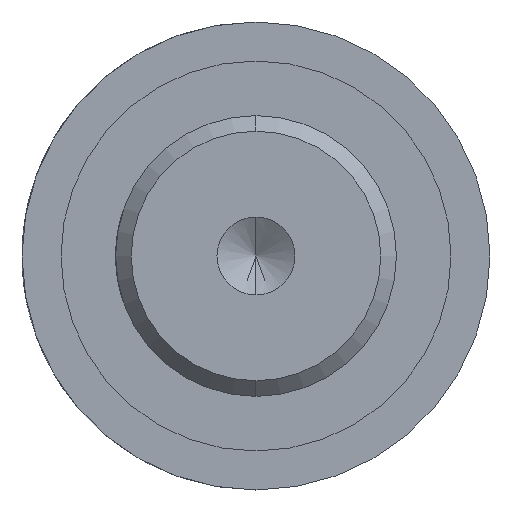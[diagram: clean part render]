
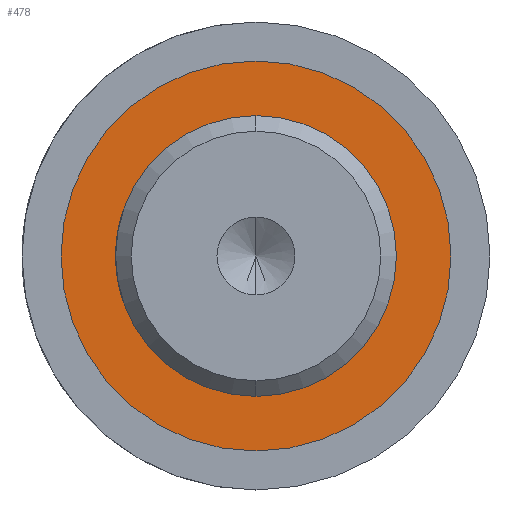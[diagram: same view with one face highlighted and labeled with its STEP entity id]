
A CAD part, left-side view. The second image highlights one B-rep face of the part: STEP entity #478.
In plain terms, the highlighted planar face has unit normal (-1, 0, 0).
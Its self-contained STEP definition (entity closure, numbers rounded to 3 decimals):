
#459 = EDGE_LOOP ( 'NONE', ( #479, #471 ) ) ;
#461 = EDGE_CURVE ( 'NONE', #520, #524, #589, .T. ) ;
#468 = ORIENTED_EDGE ( 'NONE', *, *, #537, .T. ) ;
#470 = EDGE_LOOP ( 'NONE', ( #468, #472 ) ) ;
#471 = ORIENTED_EDGE ( 'NONE', *, *, #556, .F. ) ;
#472 = ORIENTED_EDGE ( 'NONE', *, *, #461, .T. ) ;
#478 = ADVANCED_FACE ( 'NONE', ( #574, #583 ), #582, .T. ) ;
#479 = ORIENTED_EDGE ( 'NONE', *, *, #552, .F. ) ;
#520 = VERTEX_POINT ( 'NONE', #675 ) ;
#524 = VERTEX_POINT ( 'NONE', #674 ) ;
#537 = EDGE_CURVE ( 'NONE', #524, #520, #688, .T. ) ;
#548 = VERTEX_POINT ( 'NONE', #740 ) ;
#551 = VERTEX_POINT ( 'NONE', #745 ) ;
#552 = EDGE_CURVE ( 'NONE', #551, #548, #734, .T. ) ;
#556 = EDGE_CURVE ( 'NONE', #548, #551, #739, .T. ) ;
#574 = FACE_BOUND ( 'NONE', #470, .T. ) ;
#582 = PLANE ( 'NONE',  #628 ) ;
#583 = FACE_OUTER_BOUND ( 'NONE', #459, .T. ) ;
#585 = DIRECTION ( 'NONE',  ( 0., 0., -1. ) ) ;
#586 = DIRECTION ( 'NONE',  ( 1., 0., 0. ) ) ;
#587 = CARTESIAN_POINT ( 'NONE',  ( 64., 0., 0. ) ) ;
#588 = AXIS2_PLACEMENT_3D ( 'NONE', #587, #586, #585 ) ;
#589 = CIRCLE ( 'NONE', #588, 9. ) ;
#590 = DIRECTION ( 'NONE',  ( -1., 0., 0. ) ) ;
#591 = CARTESIAN_POINT ( 'NONE',  ( 64., 12.5, 0. ) ) ;
#624 = DIRECTION ( 'NONE',  ( 0., 0., 1. ) ) ;
#628 = AXIS2_PLACEMENT_3D ( 'NONE', #591, #590, #624 ) ;
#666 = DIRECTION ( 'NONE',  ( 1., 0., 0. ) ) ;
#674 = CARTESIAN_POINT ( 'NONE',  ( 64., 0., -9. ) ) ;
#675 = CARTESIAN_POINT ( 'NONE',  ( 64., 0., 9. ) ) ;
#688 = CIRCLE ( 'NONE', #692, 9. ) ;
#692 = AXIS2_PLACEMENT_3D ( 'NONE', #698, #666, #756 ) ;
#698 = CARTESIAN_POINT ( 'NONE',  ( 64., 0., 0. ) ) ;
#730 = DIRECTION ( 'NONE',  ( 0., 0., -1. ) ) ;
#731 = DIRECTION ( 'NONE',  ( 1., 0., 0. ) ) ;
#732 = CARTESIAN_POINT ( 'NONE',  ( 64., 0., 0. ) ) ;
#733 = AXIS2_PLACEMENT_3D ( 'NONE', #732, #731, #730 ) ;
#734 = CIRCLE ( 'NONE', #733, 12.5 ) ;
#739 = CIRCLE ( 'NONE', #777, 12.5 ) ;
#740 = CARTESIAN_POINT ( 'NONE',  ( 64., 0., 12.5 ) ) ;
#745 = CARTESIAN_POINT ( 'NONE',  ( 64., 0., -12.5 ) ) ;
#756 = DIRECTION ( 'NONE',  ( 0., 0., -1. ) ) ;
#775 = DIRECTION ( 'NONE',  ( 0., 0., -1. ) ) ;
#776 = DIRECTION ( 'NONE',  ( 1., 0., 0. ) ) ;
#777 = AXIS2_PLACEMENT_3D ( 'NONE', #782, #776, #775 ) ;
#782 = CARTESIAN_POINT ( 'NONE',  ( 64., 0., 0. ) ) ;
